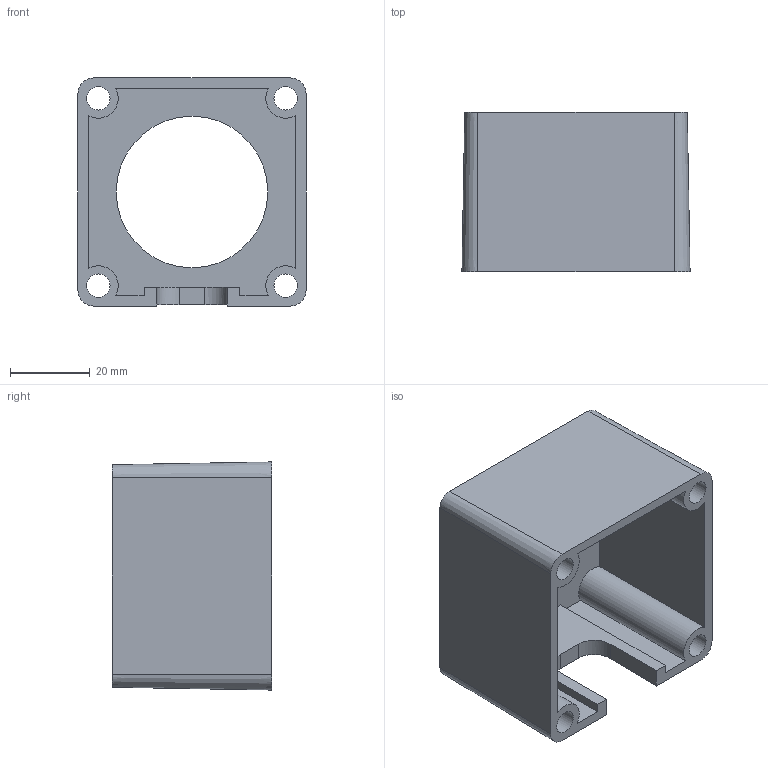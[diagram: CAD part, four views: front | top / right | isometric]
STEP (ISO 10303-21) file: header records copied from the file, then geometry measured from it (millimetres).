
FILE_DESCRIPTION(('STEP AP203'), '1');
FILE_NAME('MH-57P - ﾊ煇鳫', '', ('UNSPECIFIED'), ('UNSPECIFIED'), 'ASCON STEP Converter 1.3', 'ASCON Math Kernel', '');
FILE_SCHEMA(('CONFIG_CONTROL_DESIGN'));
Length unit declared in the file: millimetre
Products named in the file (1): MH-57P
Bounding box: 57.2 x 40 x 57.2 mm (x, y, z)
Volume: 26493.3 mm3; surface area: 23235.5 mm2
Topology: 1 solids, 1 shells, 33 faces, 93 edges, 62 vertices
Faces by surface type: plane 18, cylinder 11, cone 4
Full cylindrical faces by diameter (mm): 5.9 x4, 38 x1
Entity records: 1378 total; most frequent: CARTESIAN_POINT 190, DIRECTION 182, ORIENTED_EDGE 176, EDGE_CURVE 88, AXIS2_PLACEMENT_3D 62, VERTEX_POINT 62, LINE 58, VECTOR 58
